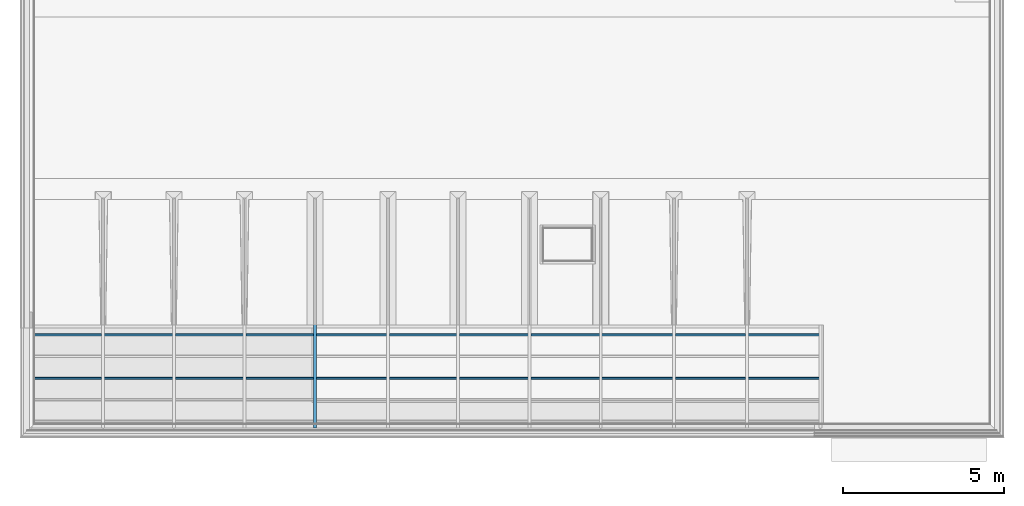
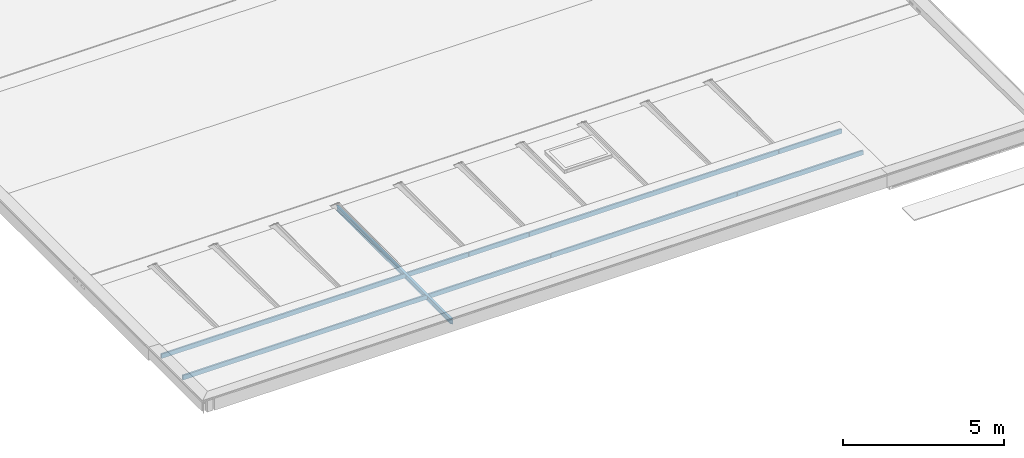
# One storey, part 3 of 16: 3 beams.
"""IFC2X3 building model written with IfcOpenShell, lengths in millimetres."""

import ifcopenshell
import ifcopenshell.guid

model = None  # the IFC model being written
_history = None  # IfcOwnerHistory: only IFC2X3 demands one
_inside = {}  # id of a spatial element -> (the spatial element, [elements in it])
_under = {}  # id of a project, library or spatial element -> (it, [spatial elements below it])
_declared = {}  # id of a project -> (the project, [libraries it declares])
_typed = {}  # id of a type object -> (the type object, [elements of that type])
_made_of = {}  # id of a material, layer set ... -> (it, [elements and type objects made of it])


def new_model(schema):
    """Start an empty IFC model of exactly this schema.

    Asked for "IFC4X3", IfcOpenShell would pick the latest addendum, in which some entities
    have other attributes; the version numbers below select the first issue.
    IFC2X3 requires an IfcOwnerHistory on every rooted entity: one is made here for all.
    """
    global model, _history
    if schema == "IFC4X3":
        model = ifcopenshell.file(schema_version=(4, 3, 0, 0))
    else:
        model = ifcopenshell.file(schema=schema)
    _inside.clear()
    _under.clear()
    _declared.clear()
    _typed.clear()
    _made_of.clear()
    _history = None
    if model.schema == "IFC2X3":
        org = make("IfcOrganization", Name="unknown")
        user = make(
            "IfcPersonAndOrganization",
            ThePerson=make("IfcPerson", FamilyName="unknown"),
            TheOrganization=org,
        )
        app = make(
            "IfcApplication",
            ApplicationDeveloper=org,
            Version="unknown",
            ApplicationFullName="unknown",
            ApplicationIdentifier="unknown",
        )
        _history = make(
            "IfcOwnerHistory",
            OwningUser=user,
            OwningApplication=app,
            ChangeAction="ADDED",
            CreationDate=0,
        )
    return model


def make(cls, **values):
    """One entity of the class cls with the attributes given. An attribute that is None is left unset."""
    return model.create_entity(
        cls, **{name: value for name, value in values.items() if value is not None}
    )


def entity(cls, *values):
    """Any entity or typed value of the class cls, its attributes in the order of the schema. None: left unset."""
    e = model.create_entity(cls)
    for i, value in enumerate(values):
        if value is not None:
            e[i] = value
    return e


def rooted(cls, **values):
    """An entity with a GlobalId (a new one), such as an element, a storey or a relation."""
    return make(cls, GlobalId=ifcopenshell.guid.new(), OwnerHistory=_history, **values)


def si_unit(unit_type, name, prefix=None):
    """IfcSIUnit, for example si_unit("LENGTHUNIT", "METRE", prefix="MILLI")."""
    return make("IfcSIUnit", UnitType=unit_type, Prefix=prefix, Name=name)


def converted_unit(unit_type, name, factor, base, dimensions=None, offset=None):
    """IfcConversionBasedUnit, such as the inch: factor (a typed value) times the base unit."""
    return make(
        "IfcConversionBasedUnit"
        if offset is None
        else "IfcConversionBasedUnitWithOffset",
        ConversionOffset=offset,
        Dimensions=None
        if dimensions is None
        else entity("IfcDimensionalExponents", *dimensions),
        UnitType=unit_type,
        Name=name,
        ConversionFactor=make(
            "IfcMeasureWithUnit", ValueComponent=factor, UnitComponent=base
        ),
    )


def derived_unit(unit_type, elements):
    """IfcDerivedUnit: a product of units, each with its exponent."""
    return make(
        "IfcDerivedUnit",
        Elements=[
            make("IfcDerivedUnitElement", Unit=unit, Exponent=power)
            for unit, power in elements
        ],
        UnitType=unit_type,
    )


def money_unit(currency):
    """IfcMonetaryUnit."""
    return make("IfcMonetaryUnit", Currency=currency)


def assignment(units):
    """IfcUnitAssignment: the units of a project."""
    return None if units is None else make("IfcUnitAssignment", Units=units)


def point(xyz):
    """IfcCartesianPoint."""
    return None if xyz is None else make("IfcCartesianPoint", Coordinates=xyz)


def direction(xyz):
    """IfcDirection."""
    return None if xyz is None else make("IfcDirection", DirectionRatios=xyz)


def frame(location, z_axis=None, x_axis=None):
    """IfcAxis2Placement3D, a coordinate frame: its origin and axes. An axis left out is left unset."""
    return make(
        "IfcAxis2Placement3D",
        Location=point(location),
        Axis=direction(z_axis),
        RefDirection=direction(x_axis),
    )


def origin_with_axes():
    """The frame at (0, 0, 0) with the z axis (0, 0, 1) and the x axis (1, 0, 0) written out."""
    return frame((0.0, 0.0, 0.0), z_axis=(0.0, 0.0, 1.0), x_axis=(1.0, 0.0, 0.0))


def place(relative_to, where):
    """IfcLocalPlacement: puts the frame where relative to a parent placement (None: the world)."""
    return make(
        "IfcLocalPlacement", PlacementRelTo=relative_to, RelativePlacement=where
    )


def context(
    kind, dimensions, precision=None, world=None, true_north=None, identifier=None
):
    """IfcGeometricRepresentationContext, for example the 3D "Model" context."""
    return make(
        "IfcGeometricRepresentationContext",
        ContextIdentifier=identifier,
        ContextType=kind,
        CoordinateSpaceDimension=dimensions,
        Precision=precision,
        WorldCoordinateSystem=world,
        TrueNorth=true_north,
    )


def subcontext(parent, identifier, kind, view, scale=None):
    """IfcGeometricRepresentationSubContext, for example "Body" below "Model"."""
    return make(
        "IfcGeometricRepresentationSubContext",
        ContextIdentifier=identifier,
        ContextType=kind,
        ParentContext=parent,
        TargetScale=scale,
        TargetView=view,
    )


def project(units=None, contexts=None):
    """IfcProject with its units and contexts."""
    return rooted(
        "IfcProject",
        Name="project",
        RepresentationContexts=contexts,
        UnitsInContext=assignment(units),
    )


def spatial(cls, under=None, at=None, **own):
    """A site, building, storey or space (cls), placed at a placement, below another one or the project."""
    s = rooted(cls, ObjectPlacement=at, **own)
    if under is not None:
        _under.setdefault(under.id(), (under, []))[1].append(s)
    return s


def faces_of(points, faces, orient=None, outer=None):
    """IfcFace entities. A face is a list of loops; a loop is a list of indices into points, from 0.

    orient and outer hold one flag for each loop. By default every Orientation is true, the
    first loop of a face is its IfcFaceOuterBound and the others are IfcFaceBound.
    """
    made = []
    for i, loops in enumerate(faces):
        bounds = []
        for j, loop in enumerate(loops):
            is_outer = j == 0 if outer is None else outer[i][j]
            bounds.append(
                make(
                    "IfcFaceOuterBound" if is_outer else "IfcFaceBound",
                    Bound=make("IfcPolyLoop", Polygon=[points[k] for k in loop]),
                    Orientation=True if orient is None else orient[i][j],
                )
            )
        made.append(make("IfcFace", Bounds=bounds))
    return made


def faceted_brep(points, faces, orient=None, outer=None, voids=None):
    """IfcFacetedBrep: a solid bounded by flat faces; with voids (closed shells), ...WithVoids."""
    shared = [point(p) for p in points]
    hull = make("IfcClosedShell", CfsFaces=faces_of(shared, faces, orient, outer))
    if voids is None:
        return make("IfcFacetedBrep", Outer=hull)
    return make(
        "IfcFacetedBrepWithVoids",
        Outer=hull,
        Voids=[
            make(cls, CfsFaces=faces_of(shared, fs, o, b)) for cls, fs, o, b in voids
        ],
    )


def shape(context_of_items, identifier, shape_type, items):
    """IfcShapeRepresentation: the items that make up one representation, for example the "Body"."""
    return make(
        "IfcShapeRepresentation",
        ContextOfItems=context_of_items,
        RepresentationIdentifier=identifier,
        RepresentationType=shape_type,
        Items=items,
    )


def material(Name=None, Category=None):
    """IfcMaterial."""
    return make("IfcMaterial", Name=Name, Category=Category)


def made_of(thing, what):
    """Note that an element or type object is made of a material, layer set ...; save() writes the relation."""
    if what is not None:
        _made_of.setdefault(what.id(), (what, []))[1].append(thing)
    return thing


def type_object(cls, material=None, **own):
    """A type object (cls), such as IfcWallType, which elements share."""
    return made_of(rooted(cls, **own), material)


def element(
    cls,
    number,
    at=None,
    inside=None,
    cuts=None,
    type_object=None,
    material=None,
    context=None,
    identifier="Body",
    shape_type=None,
    held_by="IfcProductDefinitionShape",
    body=None,
    shapes=None,
    **own,
):
    """One element of the class cls, such as IfcWall. Its Tag is "e" and its number.

    at: its placement. inside: the storey or other place that contains it. cuts: it is an
    opening in that element (IfcRelVoidsElement). A single representation is given by context,
    identifier, shape_type and body (its items); several are given by shapes. held_by: the class
    of the entity that holds the representations. save() writes the other relations.
    """
    e = rooted(cls, Tag="e%d" % number, ObjectPlacement=at, **own)
    if body is not None:
        shapes = [shape(context, identifier, shape_type, body)]
    if shapes is not None:
        e.Representation = make(held_by, Representations=shapes)
    if inside is not None:
        _inside.setdefault(inside.id(), (inside, []))[1].append(e)
    if cuts is not None:
        rooted(
            "IfcRelVoidsElement", RelatingBuildingElement=cuts, RelatedOpeningElement=e
        )
    if type_object is not None:
        _typed.setdefault(type_object.id(), (type_object, []))[1].append(e)
    return made_of(e, material)


def aggregate(whole, parts):
    """IfcRelAggregates: a whole, such as a stair, and the parts it consists of."""
    return rooted("IfcRelAggregates", RelatingObject=whole, RelatedObjects=parts)


def save(model, path):
    """Write the relations noted so far, then the file.

    IfcRelAggregates (storeys below a building ...), IfcRelContainedInSpatialStructure (elements
    in a storey), IfcRelDefinesByType, IfcRelAssociatesMaterial and IfcRelDeclares: one each for
    every whole, place, type object, material and project.
    """
    for whole, parts in _under.values():
        aggregate(whole, parts)
    for where, things in _inside.values():
        rooted(
            "IfcRelContainedInSpatialStructure",
            RelatedElements=things,
            RelatingStructure=where,
        )
    for kind, things in _typed.values():
        rooted("IfcRelDefinesByType", RelatedObjects=things, RelatingType=kind)
    for what, things in _made_of.values():
        rooted("IfcRelAssociatesMaterial", RelatedObjects=things, RelatingMaterial=what)
    for by, libraries in _declared.values():
        rooted("IfcRelDeclares", RelatingContext=by, RelatedDefinitions=libraries)
    model.write(path)


model = new_model("IFC2X3")

# Units and contexts
model_context = context("Model", 3, precision=0.01, world=origin_with_axes(), true_north=direction((0.0, 1.0)))
body_context = subcontext(model_context, "Body", "Model", "MODEL_VIEW")
ifc_project = project(units=[si_unit("LENGTHUNIT", "METRE", prefix="MILLI"), si_unit("AREAUNIT", "SQUARE_METRE"), si_unit("VOLUMEUNIT", "CUBIC_METRE"), converted_unit("PLANEANGLEUNIT", "DEGREE", entity("IfcPlaneAngleMeasure", 0.0174532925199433), si_unit("PLANEANGLEUNIT", "RADIAN"), dimensions=[0, 0, 0, 0, 0, 0, 0]), money_unit("EUR"), converted_unit("TIMEUNIT", "Year", entity("IfcTimeMeasure", 31556926.0), si_unit("TIMEUNIT", "SECOND"), dimensions=[0, 0, 1, 0, 0, 0, 0]), si_unit("MASSUNIT", "GRAM", prefix="KILO"), si_unit("THERMODYNAMICTEMPERATUREUNIT", "DEGREE_CELSIUS"), si_unit("LUMINOUSINTENSITYUNIT", "LUMEN"), si_unit("ENERGYUNIT", "JOULE", prefix="MEGA"), derived_unit("THERMALCONDUCTANCEUNIT", [(si_unit("POWERUNIT", "WATT"), 1), (si_unit("LENGTHUNIT", "METRE"), -1), (si_unit("THERMODYNAMICTEMPERATUREUNIT", "KELVIN"), -1)]), derived_unit("SPECIFICHEATCAPACITYUNIT", [(si_unit("ENERGYUNIT", "JOULE"), 1), (si_unit("MASSUNIT", "GRAM", prefix="KILO"), -1), (si_unit("THERMODYNAMICTEMPERATUREUNIT", "KELVIN"), -1)]), derived_unit("MASSDENSITYUNIT", [(si_unit("MASSUNIT", "GRAM", prefix="KILO"), 1), (si_unit("VOLUMEUNIT", "CUBIC_METRE"), -1)])], contexts=[model_context])

# Site, building, storey
site_placement = place(None, origin_with_axes())
site = spatial("IfcSite", under=ifc_project, at=site_placement, Name="Site", CompositionType="ELEMENT")
building_placement = place(site_placement, origin_with_axes())
building = spatial("IfcBuilding", under=site, at=building_placement, Name="Naam gebouw", CompositionType="ELEMENT")
storey_placement = place(building_placement, frame((0.0, 0.0, 7820.0), z_axis=(0.0, 0.0, 1.0), x_axis=(1.0, 0.0, 0.0)))
storey = spatial("IfcBuildingStorey", under=building, at=storey_placement, Name="2e dakoverzicht", CompositionType="ELEMENT", Elevation=7820.0)

# Beams
ifc_material_1 = material(Name="Hout C")
beam_type_1 = type_object("IfcBeamType", Name="Hout C 59 x 171", PredefinedType="BEAM")
beam_1_placement = place(storey_placement, frame((80.80000000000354, 6570.499999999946, 184.4999999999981), z_axis=(0.0, 0.0, 1.0), x_axis=(0.0, -1.0, 0.0)))
element("IfcBeam", 1, at=beam_1_placement, inside=storey, type_object=beam_type_1, material=ifc_material_1, Name="i HOUT_Regenwaterafvoer-x", ObjectType="BEAM", context=body_context, shape_type="Brep", body=[
    faceted_brep([(-29.49999999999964, 0.0, -83.49999999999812), (-29.49999999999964, 0.0, 74.50000000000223), (-29.49999999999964, 4.199984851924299, 74.50000000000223), (-29.49999999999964, 4.199984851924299, 85.50000000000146), (-29.49999999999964, 2161.199999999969, 85.50000000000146), (-29.49999999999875, 2161.199999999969, 77.50000000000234), (-29.49999999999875, 2204.04999999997, 77.50000000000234), (-29.49999999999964, 2204.04999999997, -85.49999999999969), (-29.49999999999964, 4.199984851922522, -85.49999999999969), (-29.49999999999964, 4.199984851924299, -83.49999999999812), (29.49999999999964, 0.0, -83.49999999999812), (29.49999999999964, 0.0, 74.50000000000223), (29.50000000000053, 4.199984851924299, 74.50000000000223), (29.50000000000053, 4.199984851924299, 85.50000000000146), (29.49999999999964, 2161.199999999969, 85.50000000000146), (29.50000000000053, 2161.199999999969, 77.50000000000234), (29.50000000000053, 2204.04999999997, 77.50000000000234), (29.49999999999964, 2204.04999999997, -85.49999999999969), (29.49999999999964, 4.199984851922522, -85.49999999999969), (29.50000000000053, 4.199984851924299, -83.49999999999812)], [[[0, 1, 2, 3, 4, 5, 6, 7, 8, 9]], [[10, 11, 1, 0]], [[12, 2, 1, 11]], [[12, 13, 3, 2]], [[4, 3, 13, 14]], [[14, 15, 5, 4]], [[15, 16, 6, 5]], [[16, 17, 7, 6]], [[17, 18, 8, 7]], [[19, 9, 8, 18]], [[10, 0, 9, 19]], [[13, 12, 11, 10, 19, 18, 17, 16, 15, 14]]]),
    faceted_brep([(-29.50000000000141, 22198.03250151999, 85.50000000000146), (-29.50000000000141, 24373.69903999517, 85.50000000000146), (-29.49999999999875, 24373.69903999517, 77.50000000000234), (-29.49999999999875, 24416.54903999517, 77.50000000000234), (-29.49999999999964, 24416.54903999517, -85.49999999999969), (-29.49999999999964, 22155.18250151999, -85.49999999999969), (-29.49999999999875, 22155.18250151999, 77.50000000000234), (-29.49999999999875, 22198.03250151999, 77.50000000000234), (29.49999999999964, 22198.03250151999, 85.50000000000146), (29.49999999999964, 24373.69903999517, 85.50000000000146), (29.49999999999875, 24373.69903999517, 77.50000000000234), (29.49999999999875, 24416.54903999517, 77.50000000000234), (29.49999999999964, 24416.54903999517, -85.49999999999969), (29.49999999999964, 22155.18250151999, -85.49999999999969), (29.49999999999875, 22155.18250151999, 77.50000000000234), (29.49999999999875, 22198.03250151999, 77.50000000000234)], [[[0, 1, 2, 3, 4, 5, 6, 7]], [[8, 9, 1, 0]], [[10, 2, 1, 9]], [[11, 3, 2, 10]], [[12, 4, 3, 11]], [[5, 4, 12, 13]], [[13, 14, 6, 5]], [[14, 15, 7, 6]], [[7, 15, 8, 0]], [[11, 10, 9, 8, 15, 14, 13, 12]]]),
    faceted_brep([(-29.50000000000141, 19931.36596304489, 85.50000000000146), (-29.50000000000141, 22107.03250151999, 85.50000000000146), (-29.49999999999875, 22107.03250151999, 77.50000000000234), (-29.49999999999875, 22149.88250151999, 77.50000000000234), (-29.49999999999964, 22149.88250151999, -85.49999999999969), (-29.49999999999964, 19888.51596304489, -85.49999999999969), (-29.49999999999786, 19888.51596304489, 77.50000000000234), (-29.49999999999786, 19931.36596304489, 77.50000000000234), (29.50000000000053, 19931.36596304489, 85.50000000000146), (29.49999999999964, 22107.03250151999, 85.50000000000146), (29.49999999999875, 22107.03250151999, 77.50000000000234), (29.49999999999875, 22149.88250151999, 77.50000000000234), (29.49999999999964, 22149.88250151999, -85.49999999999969), (29.49999999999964, 19888.51596304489, -85.49999999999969), (29.49999999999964, 19888.51596304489, 77.50000000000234), (29.49999999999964, 19931.36596304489, 77.50000000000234)], [[[0, 1, 2, 3, 4, 5, 6, 7]], [[8, 9, 1, 0]], [[10, 2, 1, 9]], [[11, 3, 2, 10]], [[12, 4, 3, 11]], [[5, 4, 12, 13]], [[13, 14, 6, 5]], [[14, 15, 7, 6]], [[7, 15, 8, 0]], [[11, 10, 9, 8, 15, 14, 13, 12]]]),
    faceted_brep([(-29.50000000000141, 17664.6994245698, 85.50000000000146), (-29.50000000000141, 19840.36596304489, 85.50000000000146), (-29.49999999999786, 19840.36596304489, 77.50000000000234), (-29.49999999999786, 19883.2159630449, 77.50000000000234), (-29.49999999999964, 19883.2159630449, -85.49999999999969), (-29.50000000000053, 17621.8494245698, -85.49999999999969), (-29.49999999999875, 17621.8494245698, 77.50000000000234), (-29.49999999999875, 17664.6994245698, 77.50000000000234), (29.49999999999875, 17664.6994245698, 85.50000000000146), (29.49999999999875, 19840.36596304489, 85.50000000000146), (29.49999999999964, 19840.36596304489, 77.50000000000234), (29.49999999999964, 19883.2159630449, 77.50000000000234), (29.49999999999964, 19883.2159630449, -85.49999999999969), (29.49999999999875, 17621.8494245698, -85.49999999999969), (29.49999999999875, 17621.8494245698, 77.50000000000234), (29.49999999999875, 17664.6994245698, 77.50000000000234)], [[[0, 1, 2, 3, 4, 5, 6, 7]], [[8, 9, 1, 0]], [[10, 2, 1, 9]], [[11, 3, 2, 10]], [[12, 4, 3, 11]], [[5, 4, 12, 13]], [[13, 14, 6, 5]], [[14, 15, 7, 6]], [[7, 15, 8, 0]], [[11, 10, 9, 8, 15, 14, 13, 12]]]),
    faceted_brep([(-29.50000000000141, 15452.19956842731, 85.50000000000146), (-29.50000000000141, 17573.6994245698, 85.50000000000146), (-29.49999999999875, 17573.6994245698, 77.50000000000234), (-29.49999999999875, 17616.5494245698, 77.50000000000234), (-29.50000000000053, 17616.5494245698, -85.49999999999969), (-29.50000000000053, 15409.34956842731, -85.49999999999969), (-29.49999999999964, 15409.34956842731, 77.50000000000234), (-29.49999999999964, 15452.19956842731, 77.50000000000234), (29.49999999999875, 15452.19956842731, 85.50000000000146), (29.49999999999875, 17573.6994245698, 85.50000000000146), (29.49999999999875, 17573.6994245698, 77.50000000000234), (29.49999999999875, 17616.5494245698, 77.50000000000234), (29.49999999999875, 17616.5494245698, -85.49999999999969), (29.49999999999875, 15409.34956842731, -85.49999999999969), (29.49999999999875, 15409.34956842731, 77.50000000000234), (29.49999999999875, 15452.19956842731, 77.50000000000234)], [[[0, 1, 2, 3, 4, 5, 6, 7]], [[8, 9, 1, 0]], [[10, 2, 1, 9]], [[11, 3, 2, 10]], [[12, 4, 3, 11]], [[5, 4, 12, 13]], [[13, 14, 6, 5]], [[14, 15, 7, 6]], [[7, 15, 8, 0]], [[11, 10, 9, 8, 15, 14, 13, 12]]]),
    faceted_brep([(-29.50000000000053, 13239.69971228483, 85.50000000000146), (-29.50000000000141, 15361.19956842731, 85.50000000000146), (-29.49999999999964, 15361.19956842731, 77.50000000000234), (-29.49999999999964, 15404.04956842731, 77.50000000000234), (-29.50000000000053, 15404.04956842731, -85.49999999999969), (-29.49999999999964, 13196.84971228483, -85.49999999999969), (-29.49999999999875, 13196.84971228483, 77.50000000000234), (-29.49999999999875, 13239.69971228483, 77.50000000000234), (29.49999999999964, 13239.69971228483, 85.50000000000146), (29.49999999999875, 15361.19956842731, 85.50000000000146), (29.49999999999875, 15361.19956842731, 77.50000000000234), (29.49999999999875, 15404.04956842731, 77.50000000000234), (29.49999999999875, 15404.04956842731, -85.49999999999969), (29.49999999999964, 13196.84971228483, -85.49999999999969), (29.49999999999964, 13196.84971228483, 77.50000000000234), (29.49999999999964, 13239.69971228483, 77.50000000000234)], [[[0, 1, 2, 3, 4, 5, 6, 7]], [[8, 9, 1, 0]], [[10, 2, 1, 9]], [[11, 3, 2, 10]], [[12, 4, 3, 11]], [[5, 4, 12, 13]], [[13, 14, 6, 5]], [[14, 15, 7, 6]], [[7, 15, 8, 0]], [[11, 10, 9, 8, 15, 14, 13, 12]]]),
    faceted_brep([(-29.50000000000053, 11072.69985614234, 85.50000000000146), (-29.50000000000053, 13148.69971228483, 85.50000000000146), (-29.49999999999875, 13148.69971228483, 77.50000000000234), (-29.49999999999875, 13191.54971228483, 77.50000000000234), (-29.49999999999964, 13191.54971228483, -85.49999999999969), (-29.50000000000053, 11029.84985614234, -85.49999999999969), (-29.49999999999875, 11029.84985614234, 77.50000000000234), (-29.49999999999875, 11072.69985614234, 77.50000000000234), (29.49999999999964, 11072.69985614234, 85.50000000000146), (29.49999999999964, 13148.69971228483, 85.50000000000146), (29.49999999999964, 13148.69971228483, 77.50000000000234), (29.49999999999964, 13191.54971228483, 77.50000000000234), (29.49999999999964, 13191.54971228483, -85.49999999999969), (29.49999999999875, 11029.84985614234, -85.49999999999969), (29.49999999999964, 11029.84985614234, 77.50000000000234), (29.49999999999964, 11072.69985614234, 77.50000000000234)], [[[0, 1, 2, 3, 4, 5, 6, 7]], [[8, 9, 1, 0]], [[10, 2, 1, 9]], [[11, 3, 2, 10]], [[12, 4, 3, 11]], [[5, 4, 12, 13]], [[13, 14, 6, 5]], [[14, 15, 7, 6]], [[7, 15, 8, 0]], [[11, 10, 9, 8, 15, 14, 13, 12]]]),
    faceted_brep([(-29.49999999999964, 8814.699999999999, 85.50000000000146), (-29.50000000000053, 10981.69985614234, 85.50000000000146), (-29.49999999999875, 10981.69985614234, 77.50000000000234), (-29.49999999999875, 11024.54985614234, 77.50000000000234), (-29.50000000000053, 11024.54985614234, -85.49999999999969), (-29.49999999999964, 8771.849999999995, -85.49999999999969), (-29.49999999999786, 8771.849999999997, 77.50000000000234), (-29.49999999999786, 8814.699999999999, 77.50000000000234), (29.49999999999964, 8814.699999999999, 85.50000000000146), (29.49999999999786, 10981.69985614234, 85.50000000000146), (29.49999999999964, 10981.69985614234, 77.50000000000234), (29.49999999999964, 11024.54985614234, 77.50000000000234), (29.49999999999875, 11024.54985614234, -85.49999999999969), (29.49999999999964, 8771.849999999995, -85.49999999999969), (29.50000000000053, 8771.849999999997, 77.50000000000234), (29.50000000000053, 8814.699999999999, 77.50000000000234)], [[[0, 1, 2, 3, 4, 5, 6, 7]], [[8, 9, 1, 0]], [[10, 2, 1, 9]], [[11, 3, 2, 10]], [[12, 4, 3, 11]], [[5, 4, 12, 13]], [[13, 14, 6, 5]], [[14, 15, 7, 6]], [[7, 15, 8, 0]], [[11, 10, 9, 8, 15, 14, 13, 12]]]),
    faceted_brep([(-29.50000000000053, 4439.699999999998, 85.50000000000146), (-29.50000000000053, 6536.199999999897, 85.50000000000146), (-29.49999999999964, 6536.199999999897, 77.50000000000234), (-29.49999999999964, 6579.049999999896, 77.50000000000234), (-29.50000000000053, 6579.049999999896, -85.49999999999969), (-29.50000000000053, 4396.849999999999, -85.49999999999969), (-29.49999999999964, 4396.849999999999, 77.50000000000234), (-29.49999999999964, 4439.699999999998, 77.50000000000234), (29.49999999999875, 4439.699999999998, 85.50000000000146), (29.49999999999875, 6536.199999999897, 85.50000000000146), (29.49999999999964, 6536.199999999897, 77.50000000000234), (29.49999999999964, 6579.049999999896, 77.50000000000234), (29.49999999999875, 6579.049999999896, -85.49999999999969), (29.49999999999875, 4396.849999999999, -85.49999999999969), (29.49999999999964, 4396.849999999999, 77.50000000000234), (29.49999999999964, 4439.699999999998, 77.50000000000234)], [[[0, 1, 2, 3, 4, 5, 6, 7]], [[8, 9, 1, 0]], [[10, 2, 1, 9]], [[11, 3, 2, 10]], [[12, 4, 3, 11]], [[5, 4, 12, 13]], [[13, 14, 6, 5]], [[14, 15, 7, 6]], [[7, 15, 8, 0]], [[11, 10, 9, 8, 15, 14, 13, 12]]]),
    faceted_brep([(-29.50000000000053, 6584.349999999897, -85.49999999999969), (-29.49999999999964, 6584.349999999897, 77.50000000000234), (-29.49999999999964, 6627.199999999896, 77.50000000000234), (-29.50000000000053, 6627.199999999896, 85.50000000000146), (-29.49999999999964, 8723.699999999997, 85.50000000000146), (-29.49999999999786, 8723.699999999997, 77.50000000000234), (-29.49999999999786, 8766.55, 77.50000000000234), (-29.49999999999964, 8766.55, -85.49999999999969), (29.49999999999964, 6584.349999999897, 77.50000000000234), (29.49999999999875, 6584.349999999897, -85.49999999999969), (29.49999999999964, 6627.199999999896, 77.50000000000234), (29.49999999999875, 6627.199999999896, 85.50000000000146), (29.49999999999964, 8723.699999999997, 85.50000000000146), (29.50000000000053, 8723.699999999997, 77.50000000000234), (29.50000000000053, 8766.55, 77.50000000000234), (29.49999999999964, 8766.55, -85.49999999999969)], [[[0, 1, 2, 3, 4, 5, 6, 7]], [[8, 1, 0, 9]], [[10, 2, 1, 8]], [[10, 11, 3, 2]], [[4, 3, 11, 12]], [[5, 4, 12, 13]], [[6, 5, 13, 14]], [[7, 6, 14, 15]], [[15, 9, 0, 7]], [[10, 8, 9, 15, 14, 13, 12, 11]]]),
    faceted_brep([(-29.49999999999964, 2252.19999999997, 85.50000000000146), (-29.50000000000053, 4348.699999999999, 85.50000000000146), (-29.49999999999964, 4348.699999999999, 77.50000000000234), (-29.49999999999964, 4391.549999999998, 77.50000000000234), (-29.50000000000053, 4391.549999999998, -85.49999999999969), (-29.49999999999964, 2209.349999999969, -85.49999999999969), (-29.49999999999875, 2209.349999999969, 77.50000000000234), (-29.49999999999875, 2252.19999999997, 77.50000000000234), (29.49999999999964, 2252.19999999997, 85.50000000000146), (29.49999999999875, 4348.699999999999, 85.50000000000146), (29.49999999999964, 4348.699999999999, 77.50000000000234), (29.49999999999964, 4391.549999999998, 77.50000000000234), (29.49999999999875, 4391.549999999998, -85.49999999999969), (29.49999999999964, 2209.349999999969, -85.49999999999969), (29.50000000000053, 2209.349999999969, 77.50000000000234), (29.50000000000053, 2252.19999999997, 77.50000000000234)], [[[0, 1, 2, 3, 4, 5, 6, 7]], [[8, 9, 1, 0]], [[10, 2, 1, 9]], [[11, 3, 2, 10]], [[12, 4, 3, 11]], [[5, 4, 12, 13]], [[13, 14, 6, 5]], [[14, 15, 7, 6]], [[7, 15, 8, 0]], [[11, 10, 9, 8, 15, 14, 13, 12]]]),
])
beam_2_placement = place(storey_placement, frame((80.80000000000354, 5232.499999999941, 184.4999999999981), z_axis=(0.0, 0.0, 1.0), x_axis=(0.0, -1.0, 0.0)))
element("IfcBeam", 2, at=beam_2_placement, inside=storey, type_object=beam_type_1, material=ifc_material_1, Name="i HOUT_Regenwaterafvoer-x", ObjectType="BEAM", context=body_context, shape_type="Brep", body=[
    faceted_brep([(-29.49999999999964, 0.0, -83.49999999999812), (-29.49999999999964, 0.0, 74.50000000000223), (-29.49999999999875, 4.199984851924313, 74.50000000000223), (-29.49999999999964, 4.199984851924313, 85.50000000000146), (-29.49999999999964, 2161.199999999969, 85.50000000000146), (-29.49999999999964, 2161.199999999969, 77.50000000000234), (-29.49999999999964, 2204.04999999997, 77.50000000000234), (-29.49999999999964, 2204.04999999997, -85.49999999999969), (-29.49999999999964, 4.199984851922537, -85.49999999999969), (-29.49999999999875, 4.199984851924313, -83.49999999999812), (29.49999999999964, 0.0, -83.49999999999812), (29.49999999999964, 0.0, 74.50000000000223), (29.50000000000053, 4.199984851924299, 74.50000000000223), (29.50000000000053, 4.199984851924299, 85.50000000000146), (29.49999999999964, 2161.199999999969, 85.50000000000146), (29.50000000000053, 2161.199999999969, 77.50000000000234), (29.50000000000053, 2204.04999999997, 77.50000000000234), (29.49999999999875, 2204.04999999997, -85.49999999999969), (29.49999999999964, 4.199984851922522, -85.49999999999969), (29.50000000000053, 4.199984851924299, -83.49999999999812)], [[[0, 1, 2, 3, 4, 5, 6, 7, 8, 9]], [[10, 11, 1, 0]], [[12, 2, 1, 11]], [[12, 13, 3, 2]], [[4, 3, 13, 14]], [[14, 15, 5, 4]], [[15, 16, 6, 5]], [[16, 17, 7, 6]], [[17, 18, 8, 7]], [[19, 9, 8, 18]], [[10, 0, 9, 19]], [[13, 12, 11, 10, 19, 18, 17, 16, 15, 14]]]),
    faceted_brep([(-29.50000000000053, 22198.03250151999, 85.50000000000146), (-29.50000000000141, 24373.69903999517, 85.50000000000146), (-29.49999999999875, 24373.69903999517, 77.50000000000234), (-29.49999999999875, 24416.54903999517, 77.50000000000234), (-29.49999999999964, 24416.54903999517, -85.49999999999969), (-29.49999999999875, 22155.18250151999, -85.49999999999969), (-29.49999999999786, 22155.18250151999, 77.50000000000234), (-29.49999999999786, 22198.03250151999, 77.50000000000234), (29.50000000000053, 22198.03250151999, 85.50000000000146), (29.49999999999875, 24373.69903999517, 85.50000000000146), (29.49999999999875, 24373.69903999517, 77.50000000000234), (29.49999999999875, 24416.54903999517, 77.50000000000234), (29.49999999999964, 24416.54903999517, -85.49999999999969), (29.50000000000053, 22155.18250151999, -85.49999999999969), (29.49999999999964, 22155.18250151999, 77.50000000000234), (29.49999999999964, 22198.03250151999, 77.50000000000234)], [[[0, 1, 2, 3, 4, 5, 6, 7]], [[8, 9, 1, 0]], [[10, 2, 1, 9]], [[11, 3, 2, 10]], [[12, 4, 3, 11]], [[5, 4, 12, 13]], [[13, 14, 6, 5]], [[14, 15, 7, 6]], [[7, 15, 8, 0]], [[11, 10, 9, 8, 15, 14, 13, 12]]]),
    faceted_brep([(-29.50000000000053, 19931.36596304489, 85.50000000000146), (-29.50000000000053, 22107.03250151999, 85.50000000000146), (-29.49999999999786, 22107.03250151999, 77.50000000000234), (-29.49999999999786, 22149.88250151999, 77.50000000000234), (-29.49999999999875, 22149.88250151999, -85.49999999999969), (-29.49999999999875, 19888.51596304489, -85.49999999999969), (-29.49999999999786, 19888.51596304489, 77.50000000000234), (-29.49999999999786, 19931.36596304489, 77.50000000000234), (29.50000000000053, 19931.36596304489, 85.50000000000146), (29.49999999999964, 22107.03250151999, 85.50000000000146), (29.49999999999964, 22107.03250151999, 77.50000000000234), (29.49999999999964, 22149.88250151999, 77.50000000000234), (29.50000000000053, 22149.88250151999, -85.49999999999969), (29.50000000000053, 19888.51596304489, -85.49999999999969), (29.50000000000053, 19888.51596304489, 77.50000000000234), (29.50000000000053, 19931.36596304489, 77.50000000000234)], [[[0, 1, 2, 3, 4, 5, 6, 7]], [[8, 9, 1, 0]], [[10, 2, 1, 9]], [[11, 3, 2, 10]], [[12, 4, 3, 11]], [[5, 4, 12, 13]], [[13, 14, 6, 5]], [[14, 15, 7, 6]], [[7, 15, 8, 0]], [[11, 10, 9, 8, 15, 14, 13, 12]]]),
    faceted_brep([(-29.50000000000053, 17664.6994245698, 85.50000000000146), (-29.50000000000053, 19840.36596304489, 85.50000000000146), (-29.49999999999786, 19840.36596304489, 77.50000000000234), (-29.49999999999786, 19883.2159630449, 77.50000000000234), (-29.49999999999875, 19883.2159630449, -85.49999999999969), (-29.49999999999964, 17621.8494245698, -85.49999999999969), (-29.49999999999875, 17621.8494245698, 77.50000000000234), (-29.49999999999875, 17664.6994245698, 77.50000000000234), (29.49999999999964, 17664.6994245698, 85.50000000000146), (29.50000000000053, 19840.36596304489, 85.50000000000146), (29.50000000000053, 19840.36596304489, 77.50000000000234), (29.50000000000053, 19883.2159630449, 77.50000000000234), (29.50000000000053, 19883.2159630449, -85.49999999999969), (29.49999999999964, 17621.8494245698, -85.49999999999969), (29.50000000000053, 17621.8494245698, 77.50000000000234), (29.50000000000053, 17664.6994245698, 77.50000000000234)], [[[0, 1, 2, 3, 4, 5, 6, 7]], [[8, 9, 1, 0]], [[10, 2, 1, 9]], [[11, 3, 2, 10]], [[12, 4, 3, 11]], [[5, 4, 12, 13]], [[13, 14, 6, 5]], [[14, 15, 7, 6]], [[7, 15, 8, 0]], [[11, 10, 9, 8, 15, 14, 13, 12]]]),
    faceted_brep([(-29.49999999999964, 15452.19956842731, 85.50000000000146), (-29.50000000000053, 17573.6994245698, 85.50000000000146), (-29.49999999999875, 17573.6994245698, 77.50000000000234), (-29.49999999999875, 17616.5494245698, 77.50000000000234), (-29.49999999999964, 17616.5494245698, -85.49999999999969), (-29.49999999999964, 15409.34956842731, -85.49999999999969), (-29.49999999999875, 15409.34956842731, 77.50000000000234), (-29.49999999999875, 15452.19956842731, 77.50000000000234), (29.49999999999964, 15452.19956842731, 85.50000000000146), (29.49999999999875, 17573.6994245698, 85.50000000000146), (29.50000000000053, 17573.6994245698, 77.50000000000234), (29.50000000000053, 17616.5494245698, 77.50000000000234), (29.49999999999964, 17616.5494245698, -85.49999999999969), (29.49999999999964, 15409.34956842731, -85.49999999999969), (29.50000000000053, 15409.34956842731, 77.50000000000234), (29.50000000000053, 15452.19956842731, 77.50000000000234)], [[[0, 1, 2, 3, 4, 5, 6, 7]], [[8, 9, 1, 0]], [[10, 2, 1, 9]], [[11, 3, 2, 10]], [[12, 4, 3, 11]], [[5, 4, 12, 13]], [[13, 14, 6, 5]], [[14, 15, 7, 6]], [[7, 15, 8, 0]], [[11, 10, 9, 8, 15, 14, 13, 12]]]),
    faceted_brep([(-29.49999999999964, 13239.69971228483, 85.50000000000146), (-29.49999999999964, 15361.19956842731, 85.50000000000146), (-29.49999999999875, 15361.19956842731, 77.50000000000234), (-29.49999999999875, 15404.04956842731, 77.50000000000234), (-29.49999999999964, 15404.04956842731, -85.49999999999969), (-29.49999999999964, 13196.84971228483, -85.49999999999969), (-29.49999999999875, 13196.84971228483, 77.50000000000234), (-29.49999999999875, 13239.69971228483, 77.50000000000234), (29.49999999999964, 13239.69971228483, 85.50000000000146), (29.49999999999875, 15361.19956842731, 85.50000000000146), (29.50000000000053, 15361.19956842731, 77.50000000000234), (29.50000000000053, 15404.04956842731, 77.50000000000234), (29.49999999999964, 15404.04956842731, -85.49999999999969), (29.49999999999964, 13196.84971228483, -85.49999999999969), (29.50000000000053, 13196.84971228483, 77.50000000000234), (29.50000000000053, 13239.69971228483, 77.50000000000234)], [[[0, 1, 2, 3, 4, 5, 6, 7]], [[8, 9, 1, 0]], [[10, 2, 1, 9]], [[11, 3, 2, 10]], [[12, 4, 3, 11]], [[5, 4, 12, 13]], [[13, 14, 6, 5]], [[14, 15, 7, 6]], [[7, 15, 8, 0]], [[11, 10, 9, 8, 15, 14, 13, 12]]]),
    faceted_brep([(-29.49999999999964, 11072.69985614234, 85.50000000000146), (-29.49999999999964, 13148.69971228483, 85.50000000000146), (-29.49999999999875, 13148.69971228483, 77.50000000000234), (-29.49999999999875, 13191.54971228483, 77.50000000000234), (-29.49999999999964, 13191.54971228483, -85.49999999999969), (-29.49999999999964, 11029.84985614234, -85.49999999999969), (-29.49999999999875, 11029.84985614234, 77.50000000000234), (-29.49999999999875, 11072.69985614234, 77.50000000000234), (29.49999999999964, 11072.69985614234, 85.50000000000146), (29.49999999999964, 13148.69971228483, 85.50000000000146), (29.50000000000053, 13148.69971228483, 77.50000000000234), (29.50000000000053, 13191.54971228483, 77.50000000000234), (29.49999999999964, 13191.54971228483, -85.49999999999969), (29.49999999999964, 11029.84985614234, -85.49999999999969), (29.50000000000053, 11029.84985614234, 77.50000000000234), (29.50000000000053, 11072.69985614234, 77.50000000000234)], [[[0, 1, 2, 3, 4, 5, 6, 7]], [[8, 9, 1, 0]], [[10, 2, 1, 9]], [[11, 3, 2, 10]], [[12, 4, 3, 11]], [[5, 4, 12, 13]], [[13, 14, 6, 5]], [[14, 15, 7, 6]], [[7, 15, 8, 0]], [[11, 10, 9, 8, 15, 14, 13, 12]]]),
    faceted_brep([(-29.49999999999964, 8814.699999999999, 85.50000000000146), (-29.49999999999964, 10981.69985614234, 85.50000000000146), (-29.49999999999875, 10981.69985614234, 77.50000000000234), (-29.49999999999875, 11024.54985614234, 77.50000000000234), (-29.49999999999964, 11024.54985614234, -85.49999999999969), (-29.49999999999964, 8771.849999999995, -85.49999999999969), (-29.49999999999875, 8771.849999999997, 77.50000000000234), (-29.49999999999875, 8814.699999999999, 77.50000000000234), (29.49999999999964, 8814.699999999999, 85.50000000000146), (29.49999999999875, 10981.69985614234, 85.50000000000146), (29.50000000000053, 10981.69985614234, 77.50000000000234), (29.50000000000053, 11024.54985614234, 77.50000000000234), (29.49999999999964, 11024.54985614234, -85.49999999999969), (29.49999999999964, 8771.849999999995, -85.49999999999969), (29.50000000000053, 8771.849999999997, 77.50000000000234), (29.50000000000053, 8814.699999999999, 77.50000000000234)], [[[0, 1, 2, 3, 4, 5, 6, 7]], [[8, 9, 1, 0]], [[10, 2, 1, 9]], [[11, 3, 2, 10]], [[12, 4, 3, 11]], [[5, 4, 12, 13]], [[13, 14, 6, 5]], [[14, 15, 7, 6]], [[7, 15, 8, 0]], [[11, 10, 9, 8, 15, 14, 13, 12]]]),
    faceted_brep([(-29.49999999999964, 4439.699999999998, 85.50000000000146), (-29.49999999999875, 6536.199999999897, 85.50000000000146), (-29.49999999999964, 6536.199999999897, 77.50000000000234), (-29.49999999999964, 6579.049999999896, 77.50000000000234), (-29.49999999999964, 6579.049999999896, -85.49999999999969), (-29.49999999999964, 4396.849999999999, -85.49999999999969), (-29.50000000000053, 4396.849999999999, 77.50000000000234), (-29.50000000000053, 4439.699999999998, 77.50000000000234), (29.49999999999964, 4439.699999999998, 85.50000000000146), (29.50000000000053, 6536.199999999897, 85.50000000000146), (29.50000000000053, 6536.199999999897, 77.50000000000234), (29.50000000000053, 6579.049999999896, 77.50000000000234), (29.49999999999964, 6579.049999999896, -85.49999999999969), (29.49999999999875, 4396.849999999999, -85.49999999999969), (29.49999999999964, 4396.849999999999, 77.50000000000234), (29.49999999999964, 4439.699999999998, 77.50000000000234)], [[[0, 1, 2, 3, 4, 5, 6, 7]], [[8, 9, 1, 0]], [[10, 2, 1, 9]], [[11, 3, 2, 10]], [[12, 4, 3, 11]], [[5, 4, 12, 13]], [[13, 14, 6, 5]], [[14, 15, 7, 6]], [[7, 15, 8, 0]], [[11, 10, 9, 8, 15, 14, 13, 12]]]),
    faceted_brep([(-29.49999999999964, 6584.349999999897, -85.49999999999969), (-29.49999999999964, 6584.349999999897, 77.50000000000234), (-29.49999999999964, 6627.199999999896, 77.50000000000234), (-29.49999999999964, 6627.199999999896, 85.50000000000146), (-29.49999999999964, 8723.699999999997, 85.50000000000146), (-29.49999999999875, 8723.699999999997, 77.50000000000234), (-29.49999999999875, 8766.55, 77.50000000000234), (-29.49999999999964, 8766.55, -85.49999999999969), (29.50000000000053, 6584.349999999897, 77.50000000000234), (29.49999999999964, 6584.349999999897, -85.49999999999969), (29.50000000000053, 6627.199999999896, 77.50000000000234), (29.49999999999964, 6627.199999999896, 85.50000000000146), (29.49999999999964, 8723.699999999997, 85.50000000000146), (29.50000000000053, 8723.699999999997, 77.50000000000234), (29.50000000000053, 8766.55, 77.50000000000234), (29.49999999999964, 8766.55, -85.49999999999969)], [[[0, 1, 2, 3, 4, 5, 6, 7]], [[8, 1, 0, 9]], [[10, 2, 1, 8]], [[10, 11, 3, 2]], [[4, 3, 11, 12]], [[5, 4, 12, 13]], [[6, 5, 13, 14]], [[7, 6, 14, 15]], [[15, 9, 0, 7]], [[10, 8, 9, 15, 14, 13, 12, 11]]]),
    faceted_brep([(-29.49999999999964, 2252.19999999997, 85.50000000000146), (-29.49999999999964, 4348.699999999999, 85.50000000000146), (-29.50000000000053, 4348.699999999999, 77.50000000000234), (-29.50000000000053, 4391.549999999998, 77.50000000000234), (-29.49999999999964, 4391.549999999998, -85.49999999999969), (-29.49999999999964, 2209.349999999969, -85.49999999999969), (-29.49999999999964, 2209.349999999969, 77.50000000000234), (-29.49999999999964, 2252.19999999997, 77.50000000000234), (29.49999999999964, 2252.19999999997, 85.50000000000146), (29.49999999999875, 4348.699999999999, 85.50000000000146), (29.49999999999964, 4348.699999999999, 77.50000000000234), (29.49999999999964, 4391.549999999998, 77.50000000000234), (29.49999999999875, 4391.549999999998, -85.49999999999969), (29.49999999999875, 2209.349999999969, -85.49999999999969), (29.50000000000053, 2209.349999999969, 77.50000000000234), (29.50000000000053, 2252.19999999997, 77.50000000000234)], [[[0, 1, 2, 3, 4, 5, 6, 7]], [[8, 9, 1, 0]], [[10, 2, 1, 9]], [[11, 3, 2, 10]], [[12, 4, 3, 11]], [[5, 4, 12, 13]], [[13, 14, 6, 5]], [[14, 15, 7, 6]], [[7, 15, 8, 0]], [[11, 10, 9, 8, 15, 14, 13, 12]]]),
])
ifc_material_2 = material(Name="Metaal - Staal C")
beam_type_2 = type_object("IfcBeamType", Name="IPE180 91 x 180", PredefinedType="BEAM")
beam_3_placement = place(storey_placement, frame((8850.000000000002, 3614.999999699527, 179.9999999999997), z_axis=(0.0, 0.0, 1.0), x_axis=(1.0, 0.0, 0.0)))
element("IfcBeam", 3, at=beam_3_placement, inside=storey, type_object=beam_type_2, material=ifc_material_2, Name="h METAAL_Regenwaterafvoer-x", ObjectType="BEAM", context=body_context, shape_type="Brep", body=[
    faceted_brep([(-45.50000000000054, 7195.000055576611, 89.99999999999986), (-45.50000000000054, 70.00000000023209, 89.99999999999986), (45.50000000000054, 70.00000000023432, 89.99999999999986), (45.50000000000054, 7195.000055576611, 89.99999999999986), (-45.50000000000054, 7195.000055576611, 82.00000000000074), (-45.50000000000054, 70.00000000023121, 82.00000000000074), (2.649999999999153, 70.00000000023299, 82.00000000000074), (45.50000000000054, 70.00000000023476, 82.00000000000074), (-2.649999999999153, 70.00000000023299, 82.00000000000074), (-2.649999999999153, 70.00000000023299, 79.00000000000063), (2.650000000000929, 70.00000000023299, 79.00000000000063), (45.50000000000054, 7195.000055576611, 82.00000000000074), (-2.649999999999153, 7195.000055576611, -81.99999999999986), (-2.649999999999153, 7195.000055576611, 82.00000000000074), (2.649999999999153, 7195.000055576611, 82.00000000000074), (2.649999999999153, 7195.000055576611, -81.99999999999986), (45.50000000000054, 7195.000055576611, -81.99999999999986), (45.50000000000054, 7195.000055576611, -89.99999999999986), (-45.50000000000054, 7195.000055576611, -89.99999999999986), (-45.50000000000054, 7195.000055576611, -81.99999999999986), (-2.649999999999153, 8.000000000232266, 79.00000000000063), (-2.649999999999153, 70.00000000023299, -81.99999999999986), (-2.649999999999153, 70.00000000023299, -78.99999999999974), (-2.649999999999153, 8.000000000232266, -78.99999999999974), (2.649999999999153, 8.00000000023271, 79.00000000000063), (2.649999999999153, 8.00000000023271, -78.99999999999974), (2.650000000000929, 70.00000000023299, -78.99999999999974), (2.649999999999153, 70.00000000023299, -81.99999999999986), (45.50000000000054, 70.00000000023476, -81.99999999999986), (45.50000000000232, 70.00000000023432, -89.99999999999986), (-45.50000000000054, 70.00000000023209, -89.99999999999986), (-45.50000000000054, 70.00000000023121, -81.99999999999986)], [[[0, 1, 2, 3]], [[4, 5, 1, 0]], [[6, 7, 2, 1, 5, 8, 9, 10]], [[3, 2, 7, 11]], [[12, 13, 4, 0, 3, 11, 14, 15, 16, 17, 18, 19]], [[13, 8, 5, 4]], [[11, 7, 6, 14]], [[20, 9, 8, 13, 12, 21, 22, 23]], [[20, 24, 10, 9]], [[25, 26, 27, 15, 14, 6, 10, 24]], [[15, 27, 28, 16]], [[16, 28, 29, 17]], [[17, 29, 30, 18]], [[18, 30, 31, 19]], [[19, 31, 21, 12]], [[30, 29, 28, 27, 26, 22, 21, 31]], [[22, 26, 25, 23]], [[23, 25, 24, 20]]]),
])

save(model, "model.ifc")
